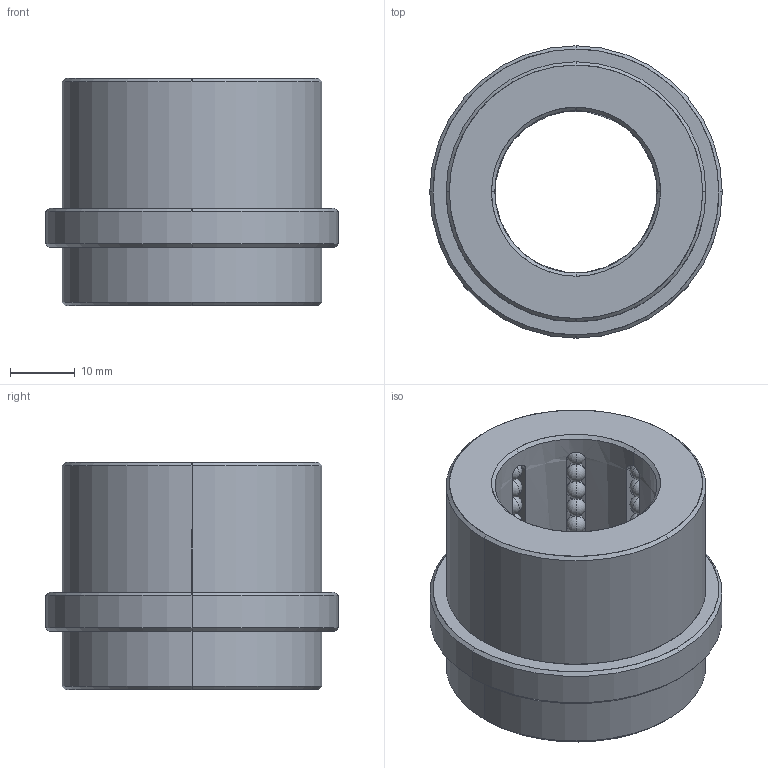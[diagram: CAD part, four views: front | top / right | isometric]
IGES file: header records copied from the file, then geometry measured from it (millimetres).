
Start section: START RECORD GO HERE.
Global section: file name: B8022526.igs; native system: DASSAULT SYSTEMES CATIA V5 R20 - www.3ds.com; preprocessor: CATIA Version 5 Release 20 ; author: Utente; organization: NB04-ASUS; date: 20200419.150156; units: millimetre
Bounding box: 45 x 45 x 35 mm (x, y, z)
Surface area: 12713 mm2 (no closed solid volume)
Topology: 0 solids, 0 shells, 364 faces, 1524 edges, 948 vertices
Faces by surface type: revolution 336, plane 28
